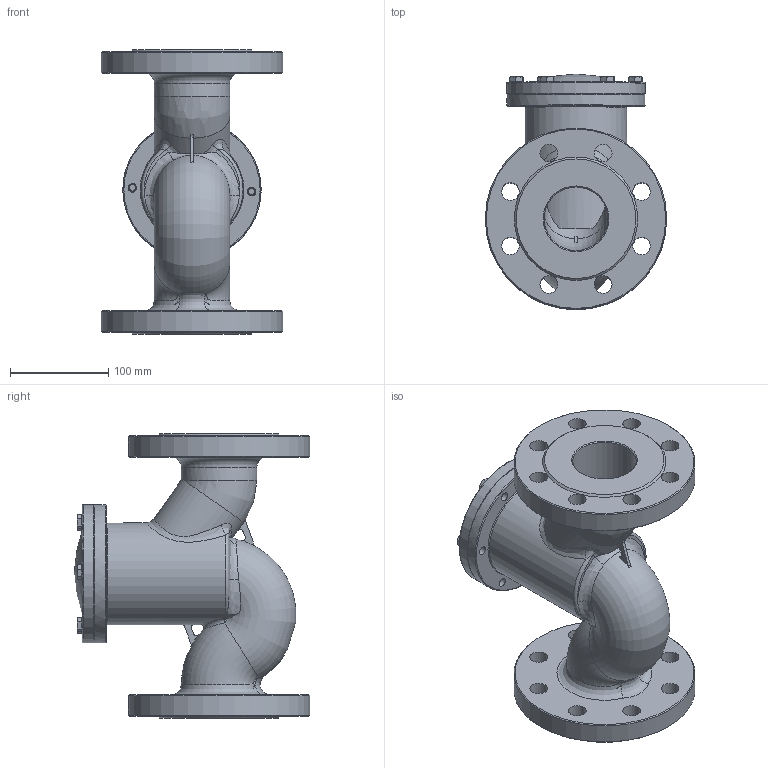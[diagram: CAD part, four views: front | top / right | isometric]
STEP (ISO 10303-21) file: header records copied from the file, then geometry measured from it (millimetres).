
FILE_DESCRIPTION(('STEP AP214'), '1');
FILE_NAME('VCR3131-F 孰囡囗 钺疣蝽 DN.ru 捏65 畜40', '2026-02-25T07:37:59', ('R2D2'), (''), 'C3D Converter', 'C3D Toolkit', '');
FILE_SCHEMA(('AUTOMOTIVE_DESIGN { 1 0 10303 214 3 1 1}'));
Length unit declared in the file: millimetre
Products named in the file (1): VCR3131-F
Bounding box: 185 x 240.33 x 290 mm (x, y, z)
Volume: 2765852.7 mm3; surface area: 353540.3 mm2
Topology: 1 solids, 1 shells, 337 faces, 816 edges, 515 vertices
Faces by surface type: plane 165, cylinder 61, cone 50, bspline 48, torus 12, sphere 1
Full cylindrical faces by diameter (mm): 8 x6, 8.751 x12, 13 x6, 15 x1, 18 x16, 65 x3, 77 x2, 103.765 x1, 141.081 x2, 185 x2
Entity records: 22771 total; most frequent: CARTESIAN_POINT 12647, ORIENTED_EDGE 1484, DIRECTION 1364, EDGE_CURVE 742, AXIS2_PLACEMENT_3D 563, VERTEX_POINT 514, EDGE_LOOP 492, FACE_BOUND 396
